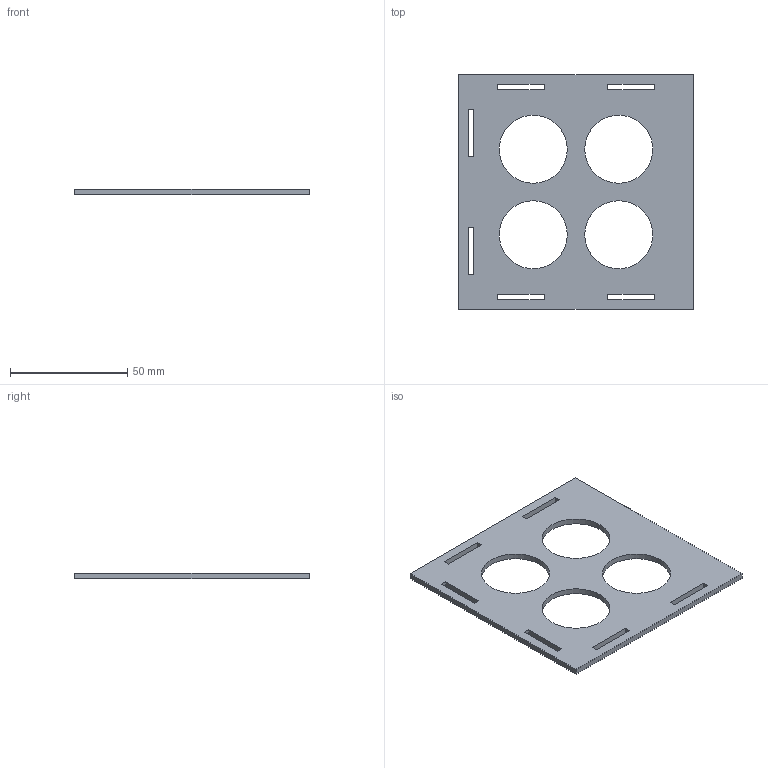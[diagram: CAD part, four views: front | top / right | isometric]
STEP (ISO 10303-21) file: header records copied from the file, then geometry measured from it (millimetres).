
FILE_DESCRIPTION(/* description */ (''),/* implementation_level */ '2;1');
FILE_NAME(/* name */ 'C:\Users\valen\Desktop\Estandar CubeSat - Programa AVES-20220531T050024Z-001\Estandar CubeSat - Programa AVES\3D - MODELS\STEP\3.Posterior.stp',/* time_stamp */ '2022-05-31T02:22:04-05:00',/* author */ ('valen'),/* organization */ (''),/* preprocessor_version */ 'ST-DEVELOPER v18.1',/* originating_system */ 'Autodesk Inventor 2022',/* authorisation */ '');
FILE_SCHEMA (('AUTOMOTIVE_DESIGN { 1 0 10303 214 3 1 1 }'));
Length unit declared in the file: millimetre
Products named in the file (1): Posteri0r
Bounding box: 100 x 100 x 2.5 mm (x, y, z)
Volume: 17644.8 mm3; surface area: 16701.9 mm2
Topology: 1 solids, 1 shells, 34 faces, 96 edges, 64 vertices
Faces by surface type: plane 30, cylinder 4
Full cylindrical faces by diameter (mm): 29 x4
Entity records: 1169 total; most frequent: CARTESIAN_POINT 195, ORIENTED_EDGE 192, DIRECTION 174, EDGE_CURVE 96, LINE 88, VECTOR 88, VERTEX_POINT 64, EDGE_LOOP 54
